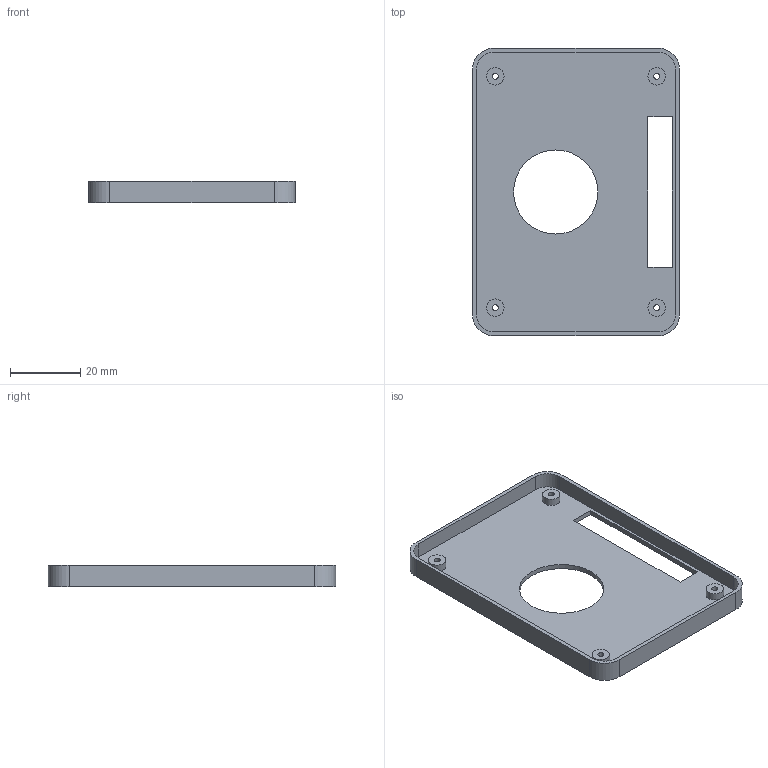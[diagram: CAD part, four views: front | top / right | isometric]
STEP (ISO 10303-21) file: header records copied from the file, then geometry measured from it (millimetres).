
FILE_DESCRIPTION(('FreeCAD Model'),'2;1');
FILE_NAME('Open CASCADE Shape Model','2026-10-19T21:34:23',('FreeCAD'),( 'FreeCAD'),'Open CASCADE STEP processor 7.8','FreeCAD','Unknown');
FILE_SCHEMA(('AUTOMOTIVE_DESIGN { 1 0 10303 214 1 1 1 1 }'));
Length unit declared in the file: millimetre
Products named in the file (1): Open CASCADE STEP translator 7.8 23
Bounding box: 59 x 82 x 6 mm (x, y, z)
Volume: 7171.2 mm3; surface area: 11396.5 mm2
Topology: 1 solids, 1 shells, 36 faces, 87 edges, 58 vertices
Faces by surface type: plane 19, cylinder 17
Full cylindrical faces by diameter (mm): 1.7 x4, 5 x4, 24 x1
Entity records: 1099 total; most frequent: DIRECTION 195, CARTESIAN_POINT 182, ORIENTED_EDGE 174, EDGE_CURVE 87, AXIS2_PLACEMENT_3D 71, VERTEX_POINT 58, FACE_BOUND 53, EDGE_LOOP 53
